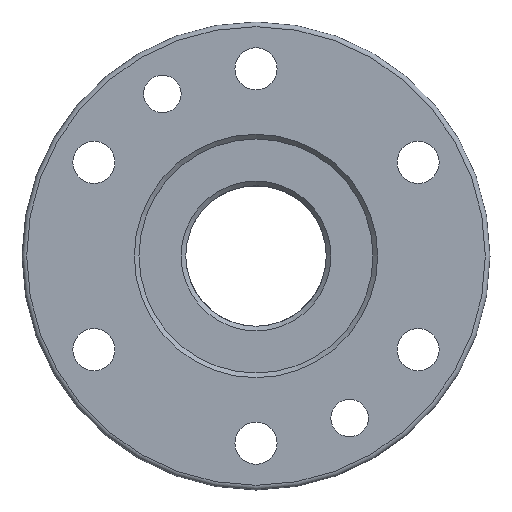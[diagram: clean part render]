
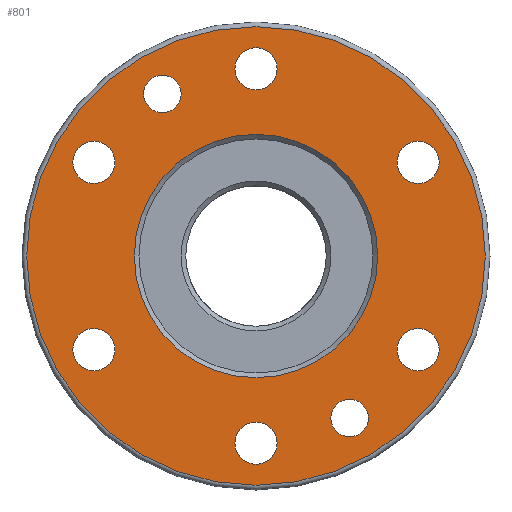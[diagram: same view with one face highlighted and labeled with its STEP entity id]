
A CAD part, front view. The second image highlights one B-rep face of the part: STEP entity #801.
In plain terms, the highlighted planar face has unit normal (0, -1, 0).
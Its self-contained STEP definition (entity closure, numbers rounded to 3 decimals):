
#62=FACE_BOUND('',#154,.T.);
#63=FACE_BOUND('',#155,.T.);
#64=FACE_BOUND('',#156,.T.);
#65=FACE_BOUND('',#157,.T.);
#66=FACE_BOUND('',#158,.T.);
#67=FACE_BOUND('',#159,.T.);
#68=FACE_BOUND('',#160,.T.);
#69=FACE_BOUND('',#161,.T.);
#70=FACE_BOUND('',#162,.T.);
#79=PLANE('',#889);
#98=FACE_OUTER_BOUND('',#153,.T.);
#153=EDGE_LOOP('',(#556));
#154=EDGE_LOOP('',(#557));
#155=EDGE_LOOP('',(#558));
#156=EDGE_LOOP('',(#559));
#157=EDGE_LOOP('',(#560));
#158=EDGE_LOOP('',(#561));
#159=EDGE_LOOP('',(#562));
#160=EDGE_LOOP('',(#563));
#161=EDGE_LOOP('',(#564));
#162=EDGE_LOOP('',(#565));
#303=CIRCLE('',#884,49.);
#307=CIRCLE('',#890,26.);
#308=CIRCLE('',#891,4.5);
#309=CIRCLE('',#892,4.5);
#310=CIRCLE('',#893,4.5);
#311=CIRCLE('',#894,4.5);
#312=CIRCLE('',#895,4.5);
#313=CIRCLE('',#896,4.5);
#314=CIRCLE('',#897,4.);
#315=CIRCLE('',#898,4.);
#359=VERTEX_POINT('',#1248);
#362=VERTEX_POINT('',#1259);
#363=VERTEX_POINT('',#1261);
#364=VERTEX_POINT('',#1263);
#365=VERTEX_POINT('',#1265);
#366=VERTEX_POINT('',#1267);
#367=VERTEX_POINT('',#1269);
#368=VERTEX_POINT('',#1271);
#369=VERTEX_POINT('',#1273);
#370=VERTEX_POINT('',#1275);
#433=EDGE_CURVE('',#359,#359,#303,.T.);
#438=EDGE_CURVE('',#362,#362,#307,.T.);
#439=EDGE_CURVE('',#363,#363,#308,.T.);
#440=EDGE_CURVE('',#364,#364,#309,.T.);
#441=EDGE_CURVE('',#365,#365,#310,.T.);
#442=EDGE_CURVE('',#366,#366,#311,.T.);
#443=EDGE_CURVE('',#367,#367,#312,.T.);
#444=EDGE_CURVE('',#368,#368,#313,.T.);
#445=EDGE_CURVE('',#369,#369,#314,.T.);
#446=EDGE_CURVE('',#370,#370,#315,.T.);
#556=ORIENTED_EDGE('',*,*,#433,.F.);
#557=ORIENTED_EDGE('',*,*,#438,.F.);
#558=ORIENTED_EDGE('',*,*,#439,.T.);
#559=ORIENTED_EDGE('',*,*,#440,.T.);
#560=ORIENTED_EDGE('',*,*,#441,.T.);
#561=ORIENTED_EDGE('',*,*,#442,.T.);
#562=ORIENTED_EDGE('',*,*,#443,.T.);
#563=ORIENTED_EDGE('',*,*,#444,.T.);
#564=ORIENTED_EDGE('',*,*,#445,.T.);
#565=ORIENTED_EDGE('',*,*,#446,.T.);
#801=ADVANCED_FACE('',(#98,#62,#63,#64,#65,#66,#67,#68,#69,#70),#79,.T.);
#884=AXIS2_PLACEMENT_3D('',#1250,#1009,#1010);
#889=AXIS2_PLACEMENT_3D('',#1258,#1020,#1021);
#890=AXIS2_PLACEMENT_3D('',#1260,#1022,#1023);
#891=AXIS2_PLACEMENT_3D('',#1262,#1024,#1025);
#892=AXIS2_PLACEMENT_3D('',#1264,#1026,#1027);
#893=AXIS2_PLACEMENT_3D('',#1266,#1028,#1029);
#894=AXIS2_PLACEMENT_3D('',#1268,#1030,#1031);
#895=AXIS2_PLACEMENT_3D('',#1270,#1032,#1033);
#896=AXIS2_PLACEMENT_3D('',#1272,#1034,#1035);
#897=AXIS2_PLACEMENT_3D('',#1274,#1036,#1037);
#898=AXIS2_PLACEMENT_3D('',#1276,#1038,#1039);
#1009=DIRECTION('center_axis',(0.,1.,0.));
#1010=DIRECTION('ref_axis',(1.,0.,0.));
#1020=DIRECTION('center_axis',(0.,-1.,0.));
#1021=DIRECTION('ref_axis',(0.,0.,-1.));
#1022=DIRECTION('center_axis',(0.,-1.,0.));
#1023=DIRECTION('ref_axis',(1.,0.,0.));
#1024=DIRECTION('center_axis',(0.,1.,0.));
#1025=DIRECTION('ref_axis',(1.,0.,0.));
#1026=DIRECTION('center_axis',(0.,1.,0.));
#1027=DIRECTION('ref_axis',(1.,0.,0.));
#1028=DIRECTION('center_axis',(0.,1.,0.));
#1029=DIRECTION('ref_axis',(1.,0.,0.));
#1030=DIRECTION('center_axis',(0.,1.,0.));
#1031=DIRECTION('ref_axis',(1.,0.,0.));
#1032=DIRECTION('center_axis',(0.,1.,0.));
#1033=DIRECTION('ref_axis',(1.,0.,0.));
#1034=DIRECTION('center_axis',(0.,1.,0.));
#1035=DIRECTION('ref_axis',(1.,0.,0.));
#1036=DIRECTION('center_axis',(0.,1.,0.));
#1037=DIRECTION('ref_axis',(1.,0.,0.));
#1038=DIRECTION('center_axis',(0.,1.,0.));
#1039=DIRECTION('ref_axis',(1.,0.,0.));
#1248=CARTESIAN_POINT('',(0.,0.,-49.));
#1250=CARTESIAN_POINT('Origin',(0.,0.,
0.));
#1258=CARTESIAN_POINT('Origin',(-37.5,0.,0.));
#1259=CARTESIAN_POINT('',(-26.,0.,0.));
#1260=CARTESIAN_POINT('Origin',(0.,0.,
0.));
#1261=CARTESIAN_POINT('',(-4.5,0.,-40.));
#1262=CARTESIAN_POINT('Origin',(0.,0.,
-40.));
#1263=CARTESIAN_POINT('',(-39.141,0.,-20.));
#1264=CARTESIAN_POINT('Origin',(-34.641,0.,-20.));
#1265=CARTESIAN_POINT('',(-39.141,0.,20.));
#1266=CARTESIAN_POINT('Origin',(-34.641,0.,20.));
#1267=CARTESIAN_POINT('',(-4.5,0.,40.));
#1268=CARTESIAN_POINT('Origin',(0.,0.,
40.));
#1269=CARTESIAN_POINT('',(30.141,0.,20.));
#1270=CARTESIAN_POINT('Origin',(34.641,0.,20.));
#1271=CARTESIAN_POINT('',(30.141,0.,-20.));
#1272=CARTESIAN_POINT('Origin',(34.641,0.,-20.));
#1273=CARTESIAN_POINT('',(-24.,0.,34.641));
#1274=CARTESIAN_POINT('Origin',(-20.,0.,34.641));
#1275=CARTESIAN_POINT('',(16.,0.,-34.641));
#1276=CARTESIAN_POINT('Origin',(20.,0.,-34.641));
